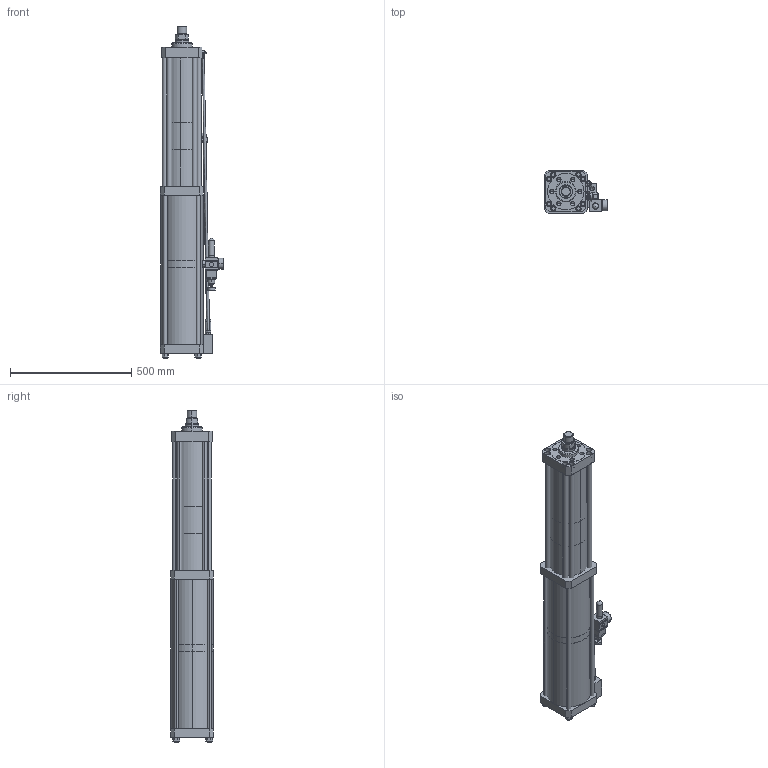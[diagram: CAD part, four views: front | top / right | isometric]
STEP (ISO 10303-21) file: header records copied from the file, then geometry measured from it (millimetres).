
FILE_DESCRIPTION (( 'STEP AP214' ), '1' );
FILE_NAME ('BS20-200-12A.STEP', '2025-10-08T07:50:45', ( 'Ranlm' ), ( '' ), 'SwSTEP 2.0', 'SolidWorks 2022', '' );
FILE_SCHEMA (( 'AUTOMOTIVE_DESIGN' ));
Length unit declared in the file: millimetre
Products named in the file (1): BS20-200-12A
Bounding box: 260.78 x 177 x 1370 mm (x, y, z)
Volume: 30771667.1 mm3; surface area: 1661459.6 mm2
Topology: 38 solids, 38 shells, 784 faces, 1725 edges, 1065 vertices
Faces by surface type: plane 339, cylinder 288, cone 108, torus 34, bspline 12, sphere 3
Entity records: 32143 total; most frequent: CARTESIAN_POINT 5677, DIRECTION 3836, ORIENTED_EDGE 3368, EDGE_CURVE 1684, AXIS2_PLACEMENT_3D 1501, VERTEX_POINT 1061, EDGE_LOOP 915, VECTOR 834
